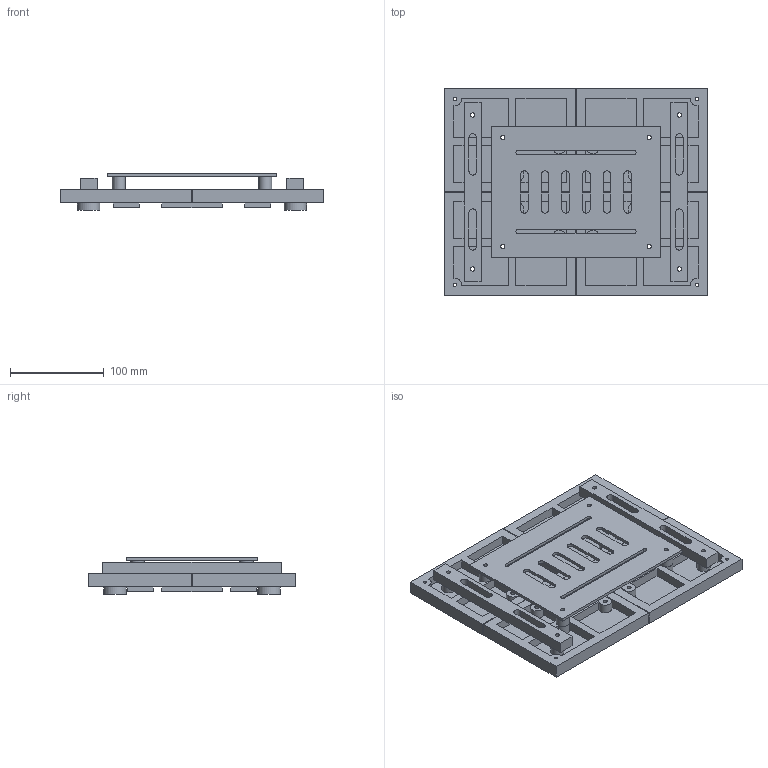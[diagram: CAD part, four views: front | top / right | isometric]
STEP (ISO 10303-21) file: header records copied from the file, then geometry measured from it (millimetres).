
FILE_DESCRIPTION(('Open CASCADE Model'),'2;1');
FILE_NAME('Open CASCADE Shape Model','2026-10-02T16:08:58',('Author'),( 'Open CASCADE'),'Open CASCADE STEP processor 7.8','Open CASCADE 7.8' ,'Unknown');
FILE_SCHEMA(('AUTOMOTIVE_DESIGN { 1 0 10303 214 1 1 1 1 }'));
Length unit declared in the file: millimetre
Products named in the file (20): Open CASCADE STEP translator 7.8 12; Open CASCADE STEP translator 7.8 12.1; Open CASCADE STEP translator 7.8 12.2; Open CASCADE STEP translator 7.8 12.3; Open CASCADE STEP translator 7.8 12.4; Open CASCADE STEP translator 7.8 12.5; Open CASCADE STEP translator 7.8 12.6; Open CASCADE STEP translator 7.8 12.7; Open CASCADE STEP translator 7.8 12.8; Open CASCADE STEP translator 7.8 12.9; Open CASCADE STEP translator 7.8 12.10; Open CASCADE STEP translator 7.8 12.11; Open CASCADE STEP translator 7.8 12.12; Open CASCADE STEP translator 7.8 12.13; Open CASCADE STEP translator 7.8 12.14; Open CASCADE STEP translator 7.8 12.15; Open CASCADE STEP translator 7.8 12.16; Open CASCADE STEP translator 7.8 12.17; Open CASCADE STEP translator 7.8 12.18; Open CASCADE STEP translator 7.8 12.19
Assembly tree (19 placements, depth 2):
  Open CASCADE STEP translator 7.8 12
    Open CASCADE STEP translator 7.8 12.1
    Open CASCADE STEP translator 7.8 12.2
    Open CASCADE STEP translator 7.8 12.3
    Open CASCADE STEP translator 7.8 12.4
    Open CASCADE STEP translator 7.8 12.5
    Open CASCADE STEP translator 7.8 12.6
    Open CASCADE STEP translator 7.8 12.7
    Open CASCADE STEP translator 7.8 12.8
    Open CASCADE STEP translator 7.8 12.9
    Open CASCADE STEP translator 7.8 12.10
    Open CASCADE STEP translator 7.8 12.11
    Open CASCADE STEP translator 7.8 12.12
    Open CASCADE STEP translator 7.8 12.13
    Open CASCADE STEP translator 7.8 12.14
    Open CASCADE STEP translator 7.8 12.15
    Open CASCADE STEP translator 7.8 12.16
    Open CASCADE STEP translator 7.8 12.17
    Open CASCADE STEP translator 7.8 12.18
    Open CASCADE STEP translator 7.8 12.19
Bounding box: 280 x 220 x 39.2 mm (x, y, z)
Volume: 707449 mm3; surface area: 296519.4 mm2
Topology: 19 solids, 19 shells, 466 faces, 1164 edges, 776 vertices
Faces by surface type: plane 346, cylinder 120
Full cylindrical faces by diameter (mm): 3.4 x4, 4.4 x56, 14 x8, 24 x4
Entity records: 29682 total; most frequent: CARTESIAN_POINT 5140, DIRECTION 4598, LINE 2962, VECTOR 2962, ORIENTED_EDGE 2328, PCURVE 2328, DEFINITIONAL_REPRESENTATION 2328, EDGE_CURVE 1164
